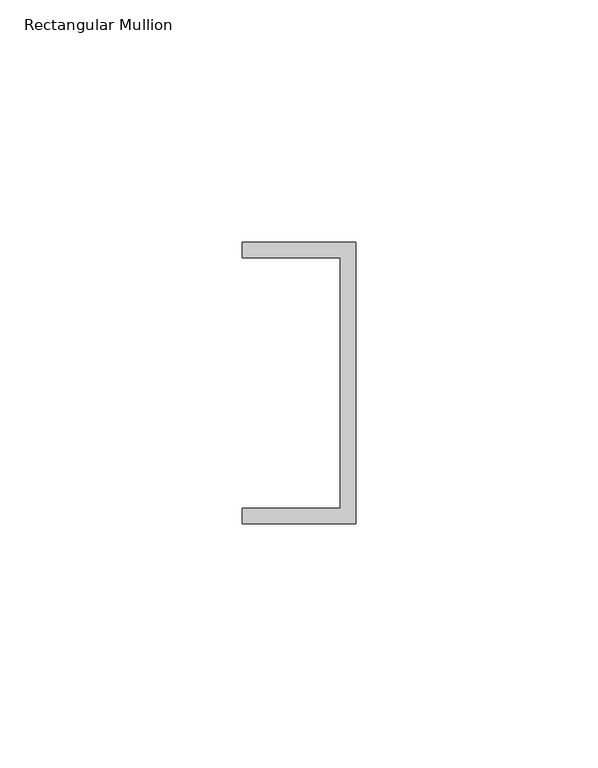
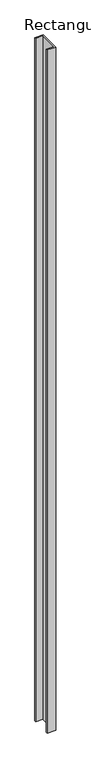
"""IFC4 building model written with IfcOpenShell, lengths in millimetres: member geometry, Rectangular Mullion : Frame-Teknion-Altos-Base_Channel."""

from ifc_helpers import new_model, si_unit, frame, origin, place, context, project, spatial, polyline, outline, extrude, source, transform, mapped, element, save


def rectangular_mullion_f0f61f1f(model_context):
    return source(origin(), model_context, "Body", "SweptSolid", [
        extrude(outline(polyline([(0.0, 29.0214844), (0.0, -29.0214844), (-23.3164063, -29.0214844), (-23.3164063, -25.8464844), (-3.175, -25.8464844), (-3.175, 25.8464844), (-23.3164063, 25.8464844), (-23.3164063, 29.0214844), (0.0, 29.0214844)])), frame((0.0, 0.0, -1976.040625), z_axis=(0.0, 0.0, 1.0), x_axis=(1.0, 0.0, 0.0)), (0.0, 0.0, 1.0), 1976.040625),
    ])


if __name__ == "__main__":
    model = new_model("IFC4")
    model_context = context("Model", 3, world=origin())
    ifc_project = project(units=[si_unit("LENGTHUNIT", "METRE", prefix="MILLI")], contexts=[model_context])
    site = spatial("IfcSite", under=ifc_project)
    building = spatial("IfcBuilding", under=site)
    placement = place(None, origin())
    rectangular_mullion_shape = rectangular_mullion_f0f61f1f(model_context)
    element("IfcMember", 1, ObjectType="Rectangular Mullion : Frame-Teknion-Altos-Base_Channel", at=placement, inside=building, context=model_context, shape_type="MappedRepresentation", body=[
        mapped(rectangular_mullion_shape, transform((0.0, 0.0, 0.0), x_axis=(1.0, 0.0, 0.0), y_axis=(0.0, 1.0, 0.0), z_axis=(0.0, 0.0, 1.0))),
    ])
    save(model, "model.ifc")
